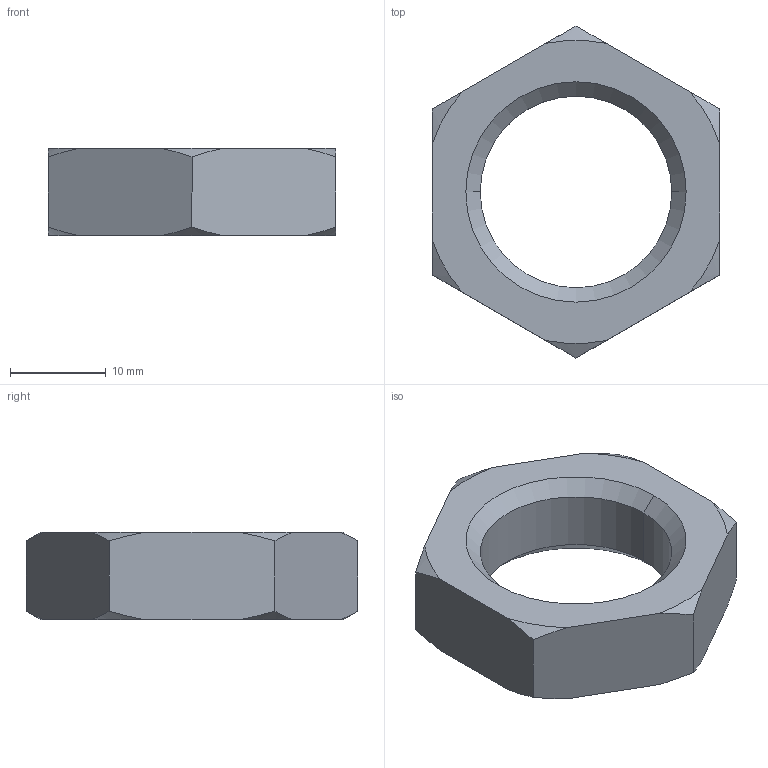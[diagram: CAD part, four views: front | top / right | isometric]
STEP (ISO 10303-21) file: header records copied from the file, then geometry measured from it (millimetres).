
FILE_DESCRIPTION (( 'STEP AP203' ), '1' );
FILE_NAME ('P0306.200-150-A2.step', '2018-12-15T14:54:30', ( '' ), ( '' ), 'SwSTEP 2.0', 'SolidWorks 2017', '' );
FILE_SCHEMA (( 'CONFIG_CONTROL_DESIGN' ));
Length unit declared in the file: millimetre
Products named in the file (1): P0306.200-150-A2
Bounding box: 30 x 34.64 x 9.1 mm (x, y, z)
Volume: 4070.8 mm3; surface area: 2316.6 mm2
Topology: 1 solids, 1 shells, 26 faces, 68 edges, 44 vertices
Faces by surface type: cone 16, plane 8, cylinder 2
Entity records: 913 total; most frequent: CARTESIAN_POINT 219, ORIENTED_EDGE 136, DIRECTION 118, EDGE_CURVE 68, AXIS2_PLACEMENT_3D 47, VERTEX_POINT 44, EDGE_LOOP 28, FACE_OUTER_BOUND 26
